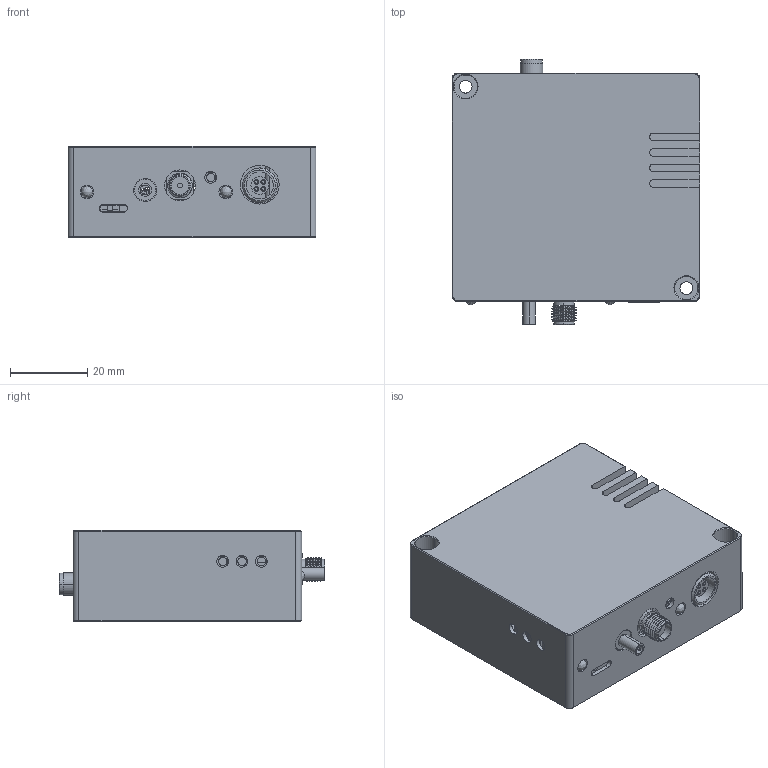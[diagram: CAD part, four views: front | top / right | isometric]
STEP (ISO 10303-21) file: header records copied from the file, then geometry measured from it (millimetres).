
FILE_DESCRIPTION (( 'STEP AP203' ), '1' );
FILE_NAME ('E53.B1S-I1.STEP', '2025-07-14T06:21:25', ( 'China' ), ( 'Home' ), 'SwSTEP 2.0', 'SolidWorks 2016', '' );
FILE_SCHEMA (( 'CONFIG_CONTROL_DESIGN' ));
Length unit declared in the file: millimetre
Products named in the file (1): E53.B1S-I1
Bounding box: 64 x 68.6 x 23.6 mm (x, y, z)
Surface area: 27099.3 mm2 (no closed solid volume)
Topology: 0 solids, 29 shells, 328 faces, 1222 edges, 917 vertices
Faces by surface type: cylinder 183, plane 109, cone 22, bspline 12, torus 2
Entity records: 13923 total; most frequent: CARTESIAN_POINT 3443, DIRECTION 2249, ORIENTED_EDGE 1860, EDGE_CURVE 1214, VERTEX_POINT 916, AXIS2_PLACEMENT_3D 827, LINE 595, VECTOR 595
